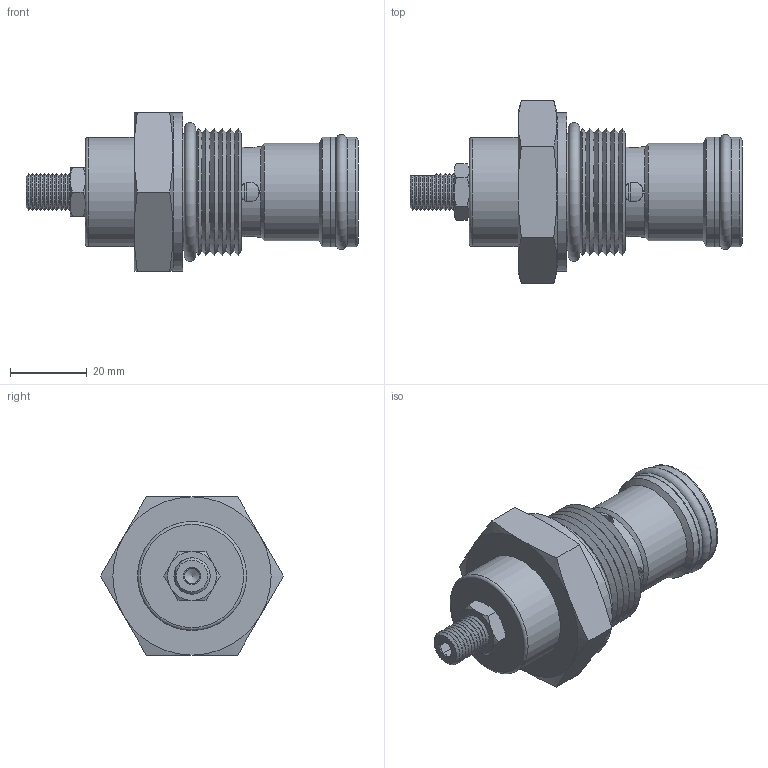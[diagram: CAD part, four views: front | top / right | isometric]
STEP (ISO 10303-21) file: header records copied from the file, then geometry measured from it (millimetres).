
FILE_DESCRIPTION(/* description */ ('','CAx-IF Rec.Pracs.---Representation and Presentation of Product Manufacturing Information (PMI)---4.0---2014-10-13'),/* implementation_level */ '2;1');
FILE_NAME(/* name */ 'P:\EARS\EAR16xx\EAR1683 - catalog pages changes\Group3_Distribution_1_18_23\RTeck Agency_Tom_UNSENT\_step files\HSJFAR00.stp',/* time_stamp */ '2023-01-20T13:06:15-06:00',/* author */ ('Michael'),/* organization */ (''),/* preprocessor_version */ 'ST-DEVELOPER v17.2',/* originating_system */ 'Autodesk Inventor 2019',/* authorisation */ '');
FILE_SCHEMA (('AP242_MANAGED_MODEL_BASED_3D_ENGINEERING_MIM_LF { 1 0 10303 442 1 1 4 }'));
Length unit declared in the file: inch
Products named in the file (1): HSJFAR00
Bounding box: 86.61 x 47.66 x 41.27 mm (x, y, z)
Volume: 53428.6 mm3; surface area: 19211.1 mm2
Topology: 5 solids, 6 shells, 166 faces, 345 edges, 207 vertices
Faces by surface type: cone 72, plane 56, cylinder 32, torus 6
Full cylindrical faces by diameter (mm): 3.962 x1, 5.156 x4, 8.636 x1, 11.652 x1, 12.668 x2, 12.954 x1, 15.894 x4, 17.418 x5, 17.482 x2, 18.669 x1, 23.698 x1, 24.181 x1, 24.232 x1, 25.4 x1, 28.448 x1, 28.524 x2, 28.55 x1, 30.328 x1, 41.275 x1
Entity records: 4623 total; most frequent: CARTESIAN_POINT 1144, DIRECTION 741, ORIENTED_EDGE 686, EDGE_CURVE 343, AXIS2_PLACEMENT_3D 322, VERTEX_POINT 207, EDGE_LOOP 200, FACE_OUTER_BOUND 166
